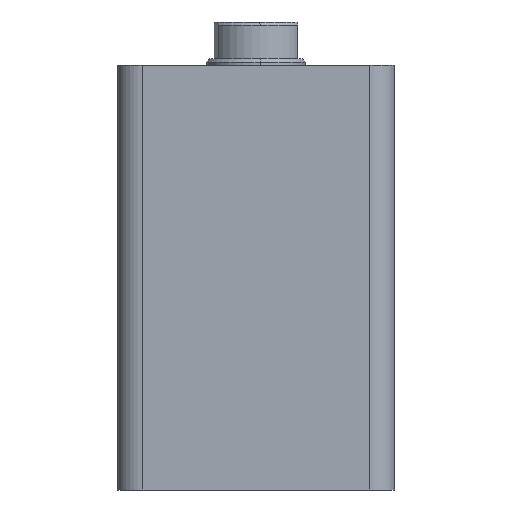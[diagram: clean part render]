
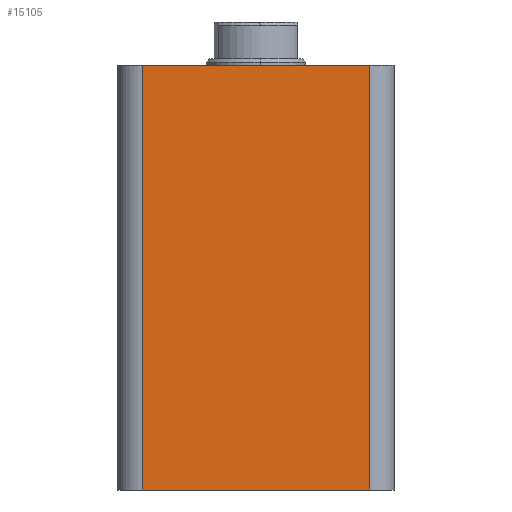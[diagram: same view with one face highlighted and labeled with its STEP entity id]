
A CAD part, front view. The second image highlights one B-rep face of the part: STEP entity #15105.
In plain terms, the highlighted planar face has unit normal (0, -1, 0).
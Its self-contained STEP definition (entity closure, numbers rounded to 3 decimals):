
#100 = VECTOR ( 'NONE', #606, 1000. ) ;
#264 = CARTESIAN_POINT ( 'NONE',  ( 41., 0., 69. ) ) ;
#282 = ORIENTED_EDGE ( 'NONE', *, *, #2347, .T. ) ;
#422 = VECTOR ( 'NONE', #2959, 1000. ) ;
#606 = DIRECTION ( 'NONE',  ( 1., 0., 0. ) ) ;
#740 = CARTESIAN_POINT ( 'NONE',  ( 4., 0., 69. ) ) ;
#1315 = VERTEX_POINT ( 'NONE', #11070 ) ;
#1779 = ORIENTED_EDGE ( 'NONE', *, *, #14487, .T. ) ;
#2103 = CARTESIAN_POINT ( 'NONE',  ( 0., 0., 69. ) ) ;
#2347 = EDGE_CURVE ( 'NONE', #5002, #1315, #6932, .T. ) ;
#2959 = DIRECTION ( 'NONE',  ( 1., 0., 0. ) ) ;
#3730 = VECTOR ( 'NONE', #12228, 1000. ) ;
#5002 = VERTEX_POINT ( 'NONE', #740 ) ;
#5582 = DIRECTION ( 'NONE',  ( 0., 0., 1. ) ) ;
#6293 = FACE_OUTER_BOUND ( 'NONE', #9783, .T. ) ;
#6932 = LINE ( 'NONE', #14847, #3730 ) ;
#7156 = ORIENTED_EDGE ( 'NONE', *, *, #11305, .T. ) ;
#7322 = DIRECTION ( 'NONE',  ( 0., 1., 0. ) ) ;
#8104 = AXIS2_PLACEMENT_3D ( 'NONE', #2103, #7322, #16513 ) ;
#8354 = CARTESIAN_POINT ( 'NONE',  ( 41., 0., 69. ) ) ;
#8493 = LINE ( 'NONE', #11058, #100 ) ;
#9440 = CARTESIAN_POINT ( 'NONE',  ( 0., 0., 0. ) ) ;
#9614 = LINE ( 'NONE', #9440, #422 ) ;
#9783 = EDGE_LOOP ( 'NONE', ( #1779, #7156, #15650, #282 ) ) ;
#11058 = CARTESIAN_POINT ( 'NONE',  ( 0., 0., 69. ) ) ;
#11070 = CARTESIAN_POINT ( 'NONE',  ( 4., 0., 0. ) ) ;
#11305 = EDGE_CURVE ( 'NONE', #14971, #15077, #11996, .T. ) ;
#11492 = PLANE ( 'NONE',  #8104 ) ;
#11996 = LINE ( 'NONE', #264, #16427 ) ;
#12228 = DIRECTION ( 'NONE',  ( 0., 0., -1. ) ) ;
#13333 = EDGE_CURVE ( 'NONE', #5002, #15077, #8493, .T. ) ;
#13979 = CARTESIAN_POINT ( 'NONE',  ( 41., 0., 0. ) ) ;
#14487 = EDGE_CURVE ( 'NONE', #1315, #14971, #9614, .T. ) ;
#14847 = CARTESIAN_POINT ( 'NONE',  ( 4., 0., 69. ) ) ;
#14971 = VERTEX_POINT ( 'NONE', #13979 ) ;
#15077 = VERTEX_POINT ( 'NONE', #8354 ) ;
#15105 = ADVANCED_FACE ( 'NONE', ( #6293 ), #11492, .F. ) ;
#15650 = ORIENTED_EDGE ( 'NONE', *, *, #13333, .F. ) ;
#16427 = VECTOR ( 'NONE', #5582, 1000. ) ;
#16513 = DIRECTION ( 'NONE',  ( 0., 0., 1. ) ) ;
